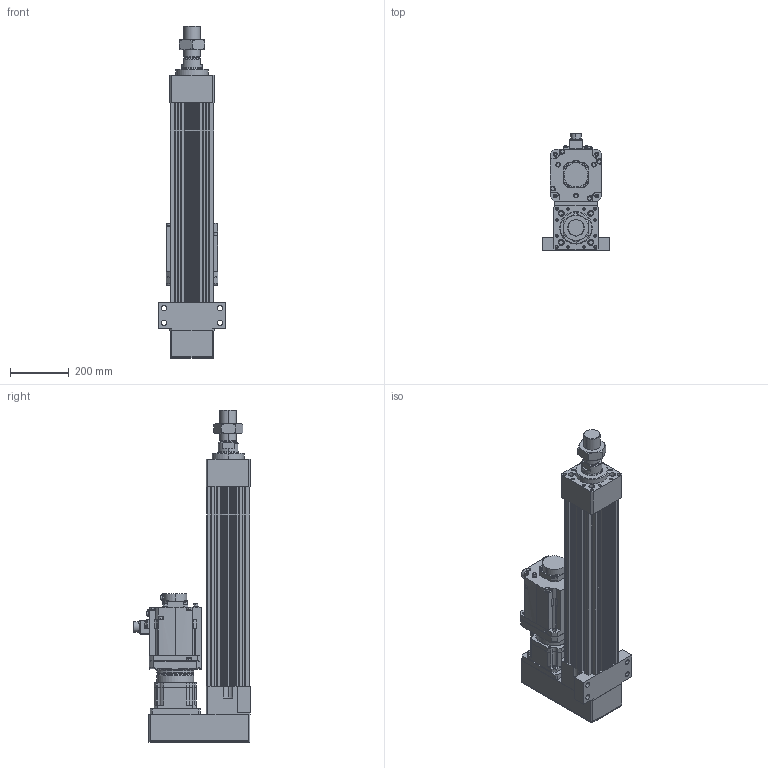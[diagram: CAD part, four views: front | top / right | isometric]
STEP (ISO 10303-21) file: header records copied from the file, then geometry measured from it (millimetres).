
FILE_DESCRIPTION (( 'STEP AP203' ), '1' );
FILE_NAME ('HES150NS(HS)-P400-W050G00-M-FFC.STEP', '2026-06-10T06:38:56', ( 'tms' ), ( '' ), 'SwSTEP 2.0', 'SolidWorks 2013', '' );
FILE_SCHEMA (( 'CONFIG_CONTROL_DESIGN' ));
Length unit declared in the file: millimetre
Products named in the file (9): HG-SR502B; HES150-P-G142; HES150-FFC-400; HES150-M-ROD-400; HES150NS(HS)-P400-W050G00-M-FFC; M56X2.0P; AB1422; AB1423; AB1421
Assembly tree (8 placements, depth 2):
  HES150NS(HS)-P400-W050G00-M-FFC
    HES150-FFC-400
    HES150-M-ROD-400
    M56X2.0P
    HES150-P-G142
    HG-SR502B
    AB1421
    AB1422
    AB1423
Bounding box: 230 x 395.85 x 1126 mm (x, y, z)
Volume: 19866589.3 mm3; surface area: 2022347.4 mm2
Topology: 5 solids, 19 shells, 1536 faces, 4000 edges, 2590 vertices
Faces by surface type: cylinder 714, plane 584, cone 156, bspline 76, torus 6
Entity records: 56036 total; most frequent: CARTESIAN_POINT 16912, DIRECTION 8212, ORIENTED_EDGE 7878, EDGE_CURVE 3961, AXIS2_PLACEMENT_3D 3115, VERTEX_POINT 2590, LINE 1982, VECTOR 1982
